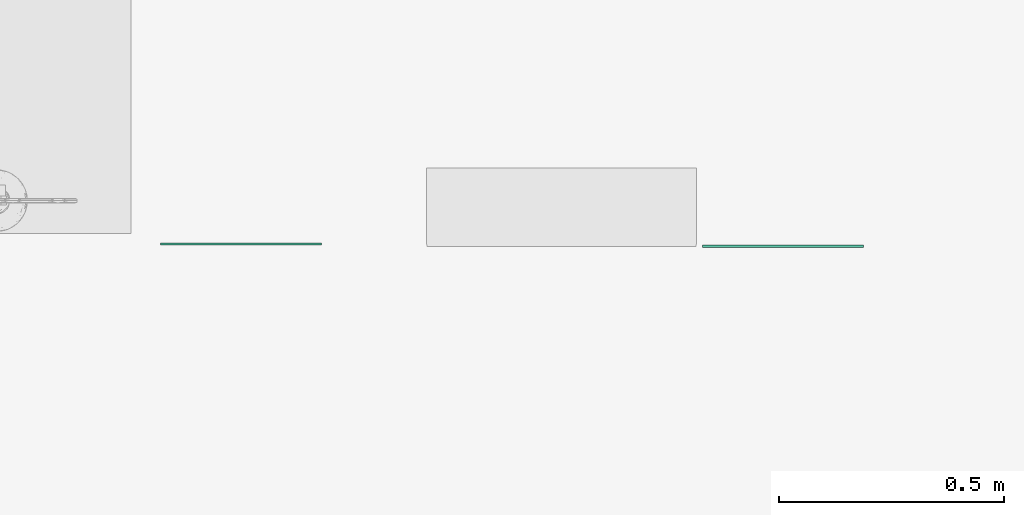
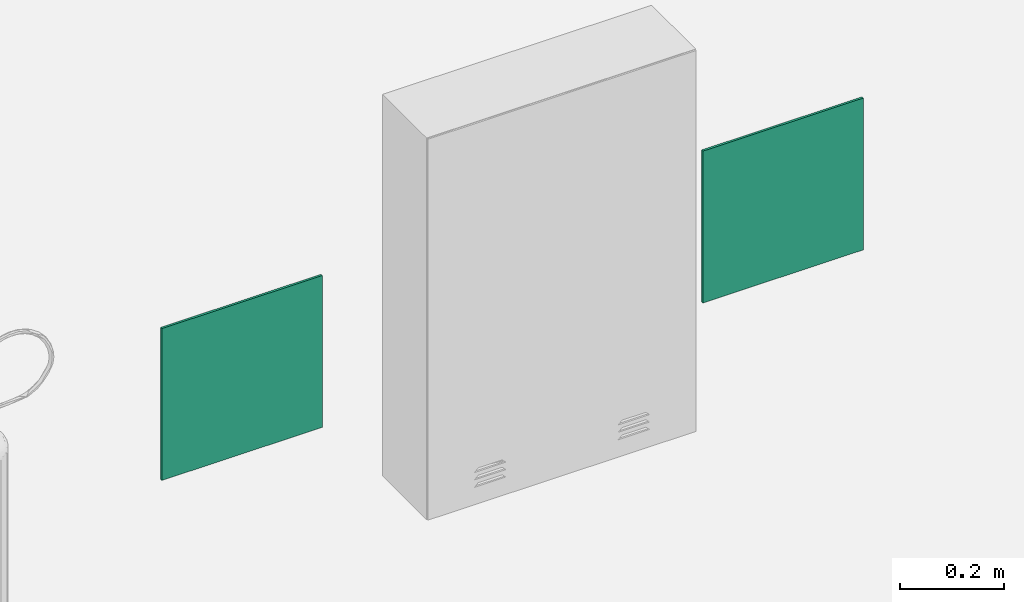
# One storey, part 5 of 6: 2 flow terminals.
"""IFC2X3 building model written with IfcOpenShell, lengths in metres."""

from ifc_helpers import new_model, entity, si_unit, converted_unit, derived_unit, direction, frame, frame_2d, origin, place, context, subcontext, project, spatial, polyline, circle_curve, parameter, trimmed, segment, composite_curve, i_section, outline, extrude, source, transform, mapped, material, material_list, type_object, type_shapes, element, save


model = new_model("IFC2X3")

# Units and contexts
model_context = context("Model", 3, precision=1e-05, world=origin(), true_north=direction((6.12303176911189e-17, 1.0)))
body_context = subcontext(model_context, "Body", "Model", "MODEL_VIEW")
ifc_project = project(units=[si_unit("LENGTHUNIT", "METRE"), si_unit("AREAUNIT", "SQUARE_METRE"), si_unit("VOLUMEUNIT", "CUBIC_METRE"), converted_unit("PLANEANGLEUNIT", "DEGREE", entity("IfcRatioMeasure", 0.0174532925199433), si_unit("PLANEANGLEUNIT", "RADIAN"), dimensions=[0, 0, 0, 0, 0, 0, 0]), si_unit("MASSUNIT", "GRAM", prefix="KILO"), derived_unit("MASSDENSITYUNIT", [(si_unit("MASSUNIT", "GRAM", prefix="KILO"), 1), (si_unit("LENGTHUNIT", "METRE"), -3)]), derived_unit("MOMENTOFINERTIAUNIT", [(si_unit("LENGTHUNIT", "METRE"), 4)]), si_unit("TIMEUNIT", "SECOND"), si_unit("FREQUENCYUNIT", "HERTZ"), si_unit("THERMODYNAMICTEMPERATUREUNIT", "DEGREE_CELSIUS"), derived_unit("THERMALTRANSMITTANCEUNIT", [(si_unit("MASSUNIT", "GRAM", prefix="KILO"), 1), (si_unit("THERMODYNAMICTEMPERATUREUNIT", "KELVIN"), -1), (si_unit("TIMEUNIT", "SECOND"), -3)]), derived_unit("VOLUMETRICFLOWRATEUNIT", [(si_unit("LENGTHUNIT", "METRE"), 3), (si_unit("TIMEUNIT", "SECOND"), -1)]), si_unit("ELECTRICCURRENTUNIT", "AMPERE"), si_unit("ELECTRICVOLTAGEUNIT", "VOLT"), si_unit("POWERUNIT", "WATT"), si_unit("FORCEUNIT", "NEWTON", prefix="KILO"), si_unit("ILLUMINANCEUNIT", "LUX"), si_unit("LUMINOUSFLUXUNIT", "LUMEN"), si_unit("LUMINOUSINTENSITYUNIT", "CANDELA"), derived_unit("USERDEFINED", [(si_unit("MASSUNIT", "GRAM", prefix="KILO"), -1), (si_unit("LENGTHUNIT", "METRE"), -2), (si_unit("TIMEUNIT", "SECOND"), 3), (si_unit("LUMINOUSFLUXUNIT", "LUMEN"), 1)]), derived_unit("LINEARVELOCITYUNIT", [(si_unit("LENGTHUNIT", "METRE"), 1), (si_unit("TIMEUNIT", "SECOND"), -1)]), si_unit("PRESSUREUNIT", "PASCAL"), derived_unit("USERDEFINED", [(si_unit("LENGTHUNIT", "METRE"), -2), (si_unit("MASSUNIT", "GRAM", prefix="KILO"), 1), (si_unit("TIMEUNIT", "SECOND"), -2)]), derived_unit("LINEARFORCEUNIT", [(si_unit("MASSUNIT", "GRAM", prefix="KILO"), 1), (si_unit("LENGTHUNIT", "METRE"), 1), (si_unit("TIMEUNIT", "SECOND"), -2), (si_unit("LENGTHUNIT", "METRE"), -1)]), derived_unit("PLANARFORCEUNIT", [(si_unit("MASSUNIT", "GRAM", prefix="KILO"), 1), (si_unit("LENGTHUNIT", "METRE"), 1), (si_unit("TIMEUNIT", "SECOND"), -2), (si_unit("LENGTHUNIT", "METRE"), -2)])], contexts=[model_context])

# Site, building, storey
site_placement = place(None, origin())
site = spatial("IfcSite", under=ifc_project, at=site_placement, Name="Default", CompositionType="ELEMENT")
building_placement = place(site_placement, origin())
building = spatial("IfcBuilding", under=site, at=building_placement, Name="C.L. MONSENHOR ANTÔNIO SAMPAIO", CompositionType="ELEMENT")
storey_placement = place(building_placement, frame((0.0, 0.0, 3.42)))
storey = spatial("IfcBuildingStorey", under=building, at=storey_placement, Name="Planta Baixa - Incêndio - Pav. Sup.", CompositionType="ELEMENT", Elevation=3.42)

# Flow terminals
ifc_material_1 = material(Name="Branco")
ifc_material_2 = material(Name="VERMELHO")
ifc_material_list_1 = material_list([ifc_material_1, ifc_material_2])
distribution_element_type_1 = type_object("IfcDistributionElementType", Name="E8:10 metros", material=ifc_material_1)
shared_shape_1 = source(origin(), body_context, "Body", "SweptSolid", [
    extrude(i_section(OverallWidth=0.285, OverallDepth=0.24141501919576, WebThickness=0.0478569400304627, FlangeThickness=0.0699999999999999, at=frame_2d((0.0, -4.16333634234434e-17), x_axis=(0.0, 1.0))), frame((0.0, -0.005, 0.173725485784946), z_axis=(0.0, 1.0, 0.0), x_axis=(1.0, 0.0, 0.0)), (0.0, 0.0, 1.0), 0.005),
    extrude(outline(polyline([(-0.179, -0.178999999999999), (0.179000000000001, -0.178999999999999), (0.179000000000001, 0.178999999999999), (-0.179000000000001, 0.178999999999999), (-0.179, -0.178999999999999)]), holes=[polyline([(0.0507075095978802, 0.137225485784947), (0.12070750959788, 0.137225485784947), (0.12070750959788, -0.147774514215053), (0.0507075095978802, -0.147774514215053), (0.0507075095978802, -0.0292029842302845), (-0.0507075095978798, -0.0292029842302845), (-0.0507075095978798, -0.147774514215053), (-0.12070750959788, -0.147774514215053), (-0.12070750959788, 0.137225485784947), (-0.0507075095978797, 0.137225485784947), (-0.0507075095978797, 0.0186539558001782), (0.0507075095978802, 0.0186539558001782), (0.0507075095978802, 0.137225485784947)])]), frame((0.0, -0.005, 0.178999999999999), z_axis=(0.0, 1.0, 0.0), x_axis=(-1.0, 0.0, 0.0)), (0.0, 0.0, 1.0), 0.005),
])
type_shapes(distribution_element_type_1, [shared_shape_1])
flow_terminal_1_placement = place(storey_placement, frame((30.4949045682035, 31.0142986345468, 1.3)))
element("IfcFlowTerminal", 1, at=flow_terminal_1_placement, inside=storey, type_object=distribution_element_type_1, material=ifc_material_list_1, Name="E8:10 metros", ObjectType="E8:10 metros", context=body_context, shape_type="MappedRepresentation", body=[
    mapped(shared_shape_1, transform((0.0, 0.0, 0.0), scale=1.0)),
])
ifc_material_list_2 = material_list([ifc_material_1, ifc_material_2])
distribution_element_type_2 = type_object("IfcDistributionElementType", Name="E5:10 metros", material=ifc_material_1)
shared_shape_2 = source(origin(), body_context, "Body", "SweptSolid", [
    extrude(outline(composite_curve([segment(polyline([(-0.254128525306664, -0.0465583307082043), (-0.0191285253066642, -0.0465583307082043)]), True, "CONTINUOUS"), segment(trimmed(circle_curve(frame_2d((-0.0664803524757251, 0.00975665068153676), x_axis=(0.0, 1.0)), 0.0735769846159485), [parameter(220.058428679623)], [parameter(257.560611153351)], True, "PARAMETER"), True, "CONTINUOUS"), segment(polyline([(0.00536937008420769, -0.00609232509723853), (0.0303693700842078, -0.006092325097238)]), True, "CONTINUOUS"), segment(polyline([(0.0303693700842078, -0.006092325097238), (0.0303693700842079, -0.0230808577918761)]), True, "CONTINUOUS"), segment(polyline([(0.0303693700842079, -0.0230808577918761), (0.0043083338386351, -0.0617179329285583)]), True, "CONTINUOUS"), segment(polyline([(0.0043083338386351, -0.0617179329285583), (-0.0104637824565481, -0.0643226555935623)]), True, "CONTINUOUS"), segment(polyline([(-0.0104637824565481, -0.0643226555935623), (-0.010463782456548, -0.0743226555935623)]), True, "CONTINUOUS"), segment(polyline([(-0.010463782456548, -0.0743226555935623), (0.0120002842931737, -0.0743226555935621)]), True, "CONTINUOUS"), segment(polyline([(0.0120002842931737, -0.0743226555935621), (0.0533610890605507, -0.0267424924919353)]), True, "CONTINUOUS"), segment(polyline([(0.0533610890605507, -0.0267424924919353), (0.0533610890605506, -0.00174249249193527)]), True, "CONTINUOUS"), segment(polyline([(0.0533610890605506, -0.00174249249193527), (0.0602467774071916, -0.00174249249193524)]), True, "CONTINUOUS"), segment(polyline([(0.0602467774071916, -0.00174249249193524), (0.0602467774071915, 0.0232575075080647)]), True, "CONTINUOUS"), segment(polyline([(0.0602467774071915, 0.0232575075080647), (0.0533610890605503, 0.0232575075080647)]), True, "CONTINUOUS"), segment(polyline([(0.0533610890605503, 0.0232575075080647), (0.0533610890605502, 0.0463624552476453)]), True, "CONTINUOUS"), segment(polyline([(0.0533610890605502, 0.0463624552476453), (0.0451773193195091, 0.0545462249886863)]), True, "CONTINUOUS"), segment(polyline([(0.0451773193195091, 0.0545462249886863), (0.0401773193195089, 0.0545462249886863)]), True, "CONTINUOUS"), segment(polyline([(0.0401773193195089, 0.0545462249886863), (0.0303693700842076, 0.0447382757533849)]), True, "CONTINUOUS"), segment(polyline([(0.0303693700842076, 0.0447382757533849), (0.0303693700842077, 0.0272220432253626)]), True, "CONTINUOUS"), segment(polyline([(0.0303693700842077, 0.0272220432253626), (0.00499364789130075, 0.0272220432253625)]), True, "CONTINUOUS"), segment(trimmed(circle_curve(frame_2d((-0.0664803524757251, 0.00975665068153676), x_axis=(0.0, 1.0)), 0.0735769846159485), [parameter(283.731707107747)], [parameter(319.941571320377)], True, "PARAMETER"), True, "CONTINUOUS"), segment(polyline([(-0.019128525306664, 0.0660716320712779), (-0.254128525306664, 0.0660716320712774)]), True, "CONTINUOUS"), segment(polyline([(-0.254128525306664, 0.0660716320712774), (-0.254128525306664, -0.0465583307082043)]), True, "CONTINUOUS")], self_intersect=False)), frame((-0.00975665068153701, -0.005, 0.271403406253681), z_axis=(0.0, 1.0, 0.0), x_axis=(0.0, 0.0, 1.0)), (0.0, 0.0, 1.0), 0.005),
    extrude(outline(polyline([(-0.179, -0.178999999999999), (0.179000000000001, -0.178999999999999), (0.179000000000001, 0.178999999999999), (-0.179000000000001, 0.178999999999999), (-0.179, -0.178999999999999)]), holes=[composite_curve([segment(polyline([(-0.0563149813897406, -0.161725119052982), (-0.056314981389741, 0.0732748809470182)]), True, "CONTINUOUS"), segment(trimmed(circle_curve(frame_2d((0.0, 0.025923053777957), x_axis=(-1.0, 0.0)), 0.0735769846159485), [parameter(283.731707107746)], [parameter(319.941571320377)], True, "PARAMETER"), False, "CONTINUOUS"), segment(polyline([(-0.0174653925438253, 0.0973970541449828), (-0.0174653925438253, 0.12277277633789)]), True, "CONTINUOUS"), segment(polyline([(-0.0174653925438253, 0.12277277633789), (-0.0349816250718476, 0.12277277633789)]), True, "CONTINUOUS"), segment(polyline([(-0.0349816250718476, 0.12277277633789), (-0.044789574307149, 0.132580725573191)]), True, "CONTINUOUS"), segment(polyline([(-0.044789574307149, 0.132580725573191), (-0.044789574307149, 0.137580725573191)]), True, "CONTINUOUS"), segment(polyline([(-0.044789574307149, 0.137580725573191), (-0.0366058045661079, 0.145764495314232)]), True, "CONTINUOUS"), segment(polyline([(-0.0366058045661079, 0.145764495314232), (-0.0135008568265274, 0.145764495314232)]), True, "CONTINUOUS"), segment(polyline([(-0.0135008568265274, 0.145764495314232), (-0.0135008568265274, 0.152650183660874)]), True, "CONTINUOUS"), segment(polyline([(-0.0135008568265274, 0.152650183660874), (0.0114991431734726, 0.152650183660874)]), True, "CONTINUOUS"), segment(polyline([(0.0114991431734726, 0.152650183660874), (0.0114991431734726, 0.145764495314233)]), True, "CONTINUOUS"), segment(polyline([(0.0114991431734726, 0.145764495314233), (0.0364991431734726, 0.145764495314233)]), True, "CONTINUOUS"), segment(polyline([(0.0364991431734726, 0.145764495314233), (0.0840793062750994, 0.104403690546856)]), True, "CONTINUOUS"), segment(polyline([(0.0840793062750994, 0.104403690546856), (0.0840793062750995, 0.081939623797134)]), True, "CONTINUOUS"), segment(polyline([(0.0840793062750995, 0.081939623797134), (0.0740793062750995, 0.0819396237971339)]), True, "CONTINUOUS"), segment(polyline([(0.0740793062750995, 0.0819396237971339), (0.0714745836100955, 0.0967117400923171)]), True, "CONTINUOUS"), segment(polyline([(0.0714745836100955, 0.0967117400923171), (0.0328375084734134, 0.12277277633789)]), True, "CONTINUOUS"), segment(polyline([(0.0328375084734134, 0.12277277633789), (0.0158489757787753, 0.12277277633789)]), True, "CONTINUOUS"), segment(polyline([(0.0158489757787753, 0.12277277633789), (0.0158489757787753, 0.0977727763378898)]), True, "CONTINUOUS"), segment(trimmed(circle_curve(frame_2d((0.0, 0.025923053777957), x_axis=(-1.0, 0.0)), 0.0735769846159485), [parameter(220.058428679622)], [parameter(257.560611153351)], True, "PARAMETER"), False, "CONTINUOUS"), segment(polyline([(0.0563149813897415, 0.0732748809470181), (0.0563149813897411, -0.161725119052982)]), True, "CONTINUOUS"), segment(polyline([(0.0563149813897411, -0.161725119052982), (-0.0563149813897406, -0.161725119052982)]), True, "CONTINUOUS")], self_intersect=False)]), frame((0.0, -0.005, 0.178999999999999), z_axis=(0.0, 1.0, 0.0), x_axis=(-1.0, 0.0, 0.0)), (0.0, 0.0, 1.0), 0.005),
])
type_shapes(distribution_element_type_2, [shared_shape_2])
flow_terminal_2_placement = place(storey_placement, frame((29.2911996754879, 31.0142986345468, 1.3), z_axis=(0.0, 0.0, 1.0), x_axis=(-1.0, 0.0, 0.0)))
element("IfcFlowTerminal", 2, at=flow_terminal_2_placement, inside=storey, type_object=distribution_element_type_2, material=ifc_material_list_2, Name="E5:10 metros", ObjectType="E5:10 metros", context=body_context, shape_type="MappedRepresentation", body=[
    mapped(shared_shape_2, transform((0.0, 0.0, 0.0), scale=1.0)),
])

save(model, "model.ifc")
